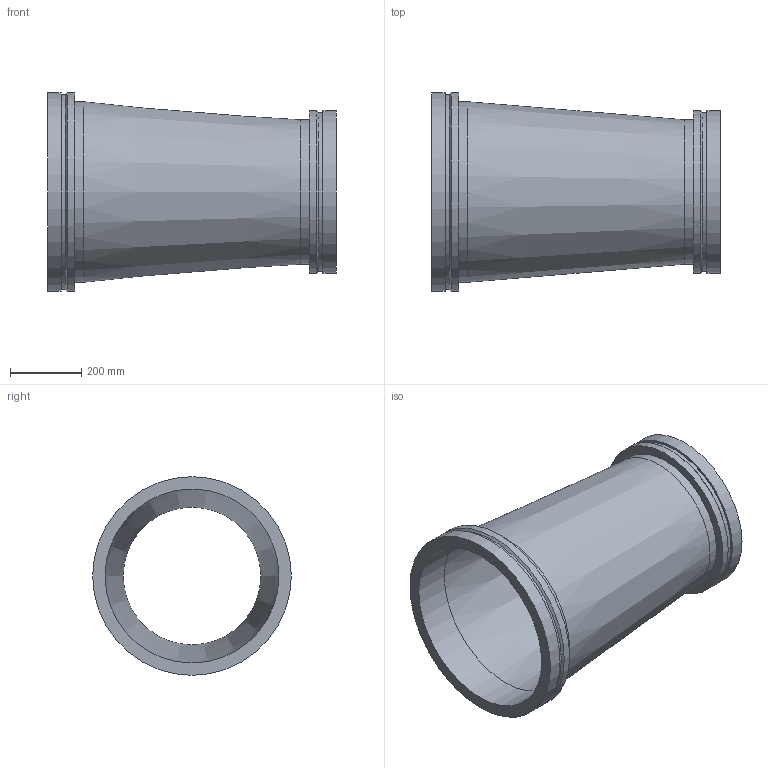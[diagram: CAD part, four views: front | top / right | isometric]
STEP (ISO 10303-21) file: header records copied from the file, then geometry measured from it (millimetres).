
FILE_DESCRIPTION(/* description */ ('VIC REDUCER CONCENTRIC No W50 VR','CAx-IF Rec.Pracs.---Representation and Presentation of Product Manufacturing Information (PMI)---4.0---2014-10-13'),/* implementation_level */ '2;1');
FILE_NAME(/* name */ 'C:\Users\kkamble\AppData\Roaming\Autodesk\ApplicationPlugins\Back Up\Victaulic_Vic-Ring_Reducer Concentric_No W50 VR (AGR)\Victaulic_Vic-Ring_Reducer Concentric_No W50 VR (AGR)_20.0x16.0 (500x400).stp',/* time_stamp */ '2020-09-10T11:45:31+05:00',/* author */ ('cps_temp'),/* organization */ ('Victaulic'),/* preprocessor_version */ 'ST-DEVELOPER v17.2',/* originating_system */ 'Autodesk Inventor 2019',/* authorisation */ '');
FILE_SCHEMA (('AP242_MANAGED_MODEL_BASED_3D_ENGINEERING_MIM_LF { 1 0 10303 442 1 1 4 }'));
Length unit declared in the file: inch
Products named in the file (1): W50 VR-20.0x16.0
Bounding box: 812.8 x 558.8 x 558.8 mm (x, y, z)
Volume: 16472361.3 mm3; surface area: 2525574.1 mm2
Topology: 1 solids, 1 shells, 20 faces, 54 edges, 40 vertices
Faces by surface type: cylinder 10, plane 6, cone 4
Full cylindrical faces by diameter (mm): 387.35 x1, 406.4 x1, 444.5 x1, 457.2 x2, 488.95 x1, 508 x1, 546.1 x1, 558.8 x2
Entity records: 830 total; most frequent: DIRECTION 162, CARTESIAN_POINT 132, ORIENTED_EDGE 108, AXIS2_PLACEMENT_3D 74, EDGE_CURVE 54, CIRCLE 40, VERTEX_POINT 40, EDGE_LOOP 26
